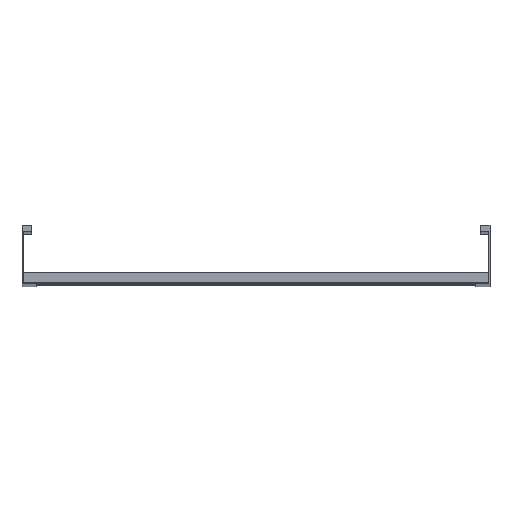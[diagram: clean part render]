
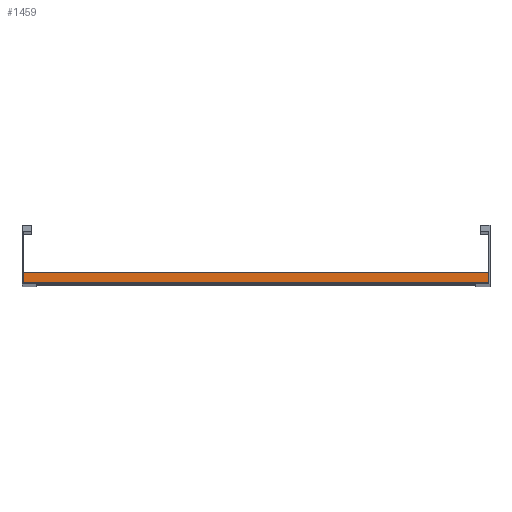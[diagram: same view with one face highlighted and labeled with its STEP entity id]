
A CAD part, top view. The second image highlights one B-rep face of the part: STEP entity #1459.
In plain terms, the highlighted planar face has unit normal (0, 0, 1).
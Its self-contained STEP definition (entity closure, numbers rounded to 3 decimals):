
#6 = VERTEX_POINT ( 'NONE', #1457 ) ;
#33 = LINE ( 'NONE', #582, #1699 ) ;
#89 = AXIS2_PLACEMENT_3D ( 'NONE', #1628, #1359, #406 ) ;
#100 = DIRECTION ( 'NONE',  ( -1., 0., 0. ) ) ;
#245 = ORIENTED_EDGE ( 'NONE', *, *, #606, .F. ) ;
#293 = PLANE ( 'NONE',  #89 ) ;
#314 = EDGE_CURVE ( 'NONE', #435, #6, #766, .T. ) ;
#332 = ORIENTED_EDGE ( 'NONE', *, *, #1318, .F. ) ;
#406 = DIRECTION ( 'NONE',  ( 0., 1., 0. ) ) ;
#413 = EDGE_LOOP ( 'NONE', ( #1407, #332, #245, #1114 ) ) ;
#435 = VERTEX_POINT ( 'NONE', #920 ) ;
#437 = FACE_OUTER_BOUND ( 'NONE', #413, .T. ) ;
#493 = CARTESIAN_POINT ( 'NONE',  ( 448., 0., 20.25 ) ) ;
#573 = DIRECTION ( 'NONE',  ( 0., -1., 0. ) ) ;
#582 = CARTESIAN_POINT ( 'NONE',  ( 448., 20., 20.25 ) ) ;
#606 = EDGE_CURVE ( 'NONE', #435, #838, #33, .T. ) ;
#658 = EDGE_CURVE ( 'NONE', #6, #1237, #1346, .T. ) ;
#766 = LINE ( 'NONE', #1414, #1534 ) ;
#838 = VERTEX_POINT ( 'NONE', #993 ) ;
#920 = CARTESIAN_POINT ( 'NONE',  ( 448., 20., 20.25 ) ) ;
#959 = VECTOR ( 'NONE', #100, 1000. ) ;
#993 = CARTESIAN_POINT ( 'NONE',  ( 448., 0., 20.25 ) ) ;
#1044 = VECTOR ( 'NONE', #1476, 1000. ) ;
#1114 = ORIENTED_EDGE ( 'NONE', *, *, #314, .T. ) ;
#1237 = VERTEX_POINT ( 'NONE', #1521 ) ;
#1318 = EDGE_CURVE ( 'NONE', #838, #1237, #1713, .T. ) ;
#1346 = LINE ( 'NONE', #1602, #1044 ) ;
#1359 = DIRECTION ( 'NONE',  ( 0., 0., -1. ) ) ;
#1407 = ORIENTED_EDGE ( 'NONE', *, *, #658, .T. ) ;
#1414 = CARTESIAN_POINT ( 'NONE',  ( 448., 20., 20.25 ) ) ;
#1457 = CARTESIAN_POINT ( 'NONE',  ( -448., 20., 20.25 ) ) ;
#1459 = ADVANCED_FACE ( 'NONE', ( #437 ), #293, .F. ) ;
#1476 = DIRECTION ( 'NONE',  ( 0., -1., 0. ) ) ;
#1521 = CARTESIAN_POINT ( 'NONE',  ( -448., 0., 20.25 ) ) ;
#1524 = DIRECTION ( 'NONE',  ( -1., 0., 0. ) ) ;
#1534 = VECTOR ( 'NONE', #1524, 1000. ) ;
#1602 = CARTESIAN_POINT ( 'NONE',  ( -448., 20., 20.25 ) ) ;
#1628 = CARTESIAN_POINT ( 'NONE',  ( 448., 20., 20.25 ) ) ;
#1699 = VECTOR ( 'NONE', #573, 1000. ) ;
#1713 = LINE ( 'NONE', #493, #959 ) ;
